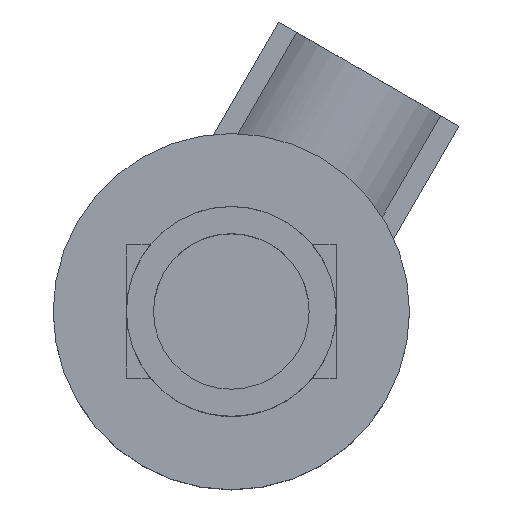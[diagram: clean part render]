
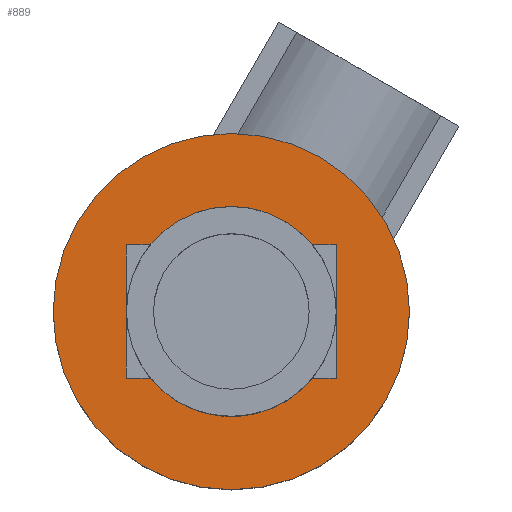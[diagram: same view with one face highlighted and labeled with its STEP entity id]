
A CAD part, top view. The second image highlights one B-rep face of the part: STEP entity #889.
In plain terms, the highlighted planar face has unit normal (0, 0, 1).
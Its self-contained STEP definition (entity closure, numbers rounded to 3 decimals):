
#70=DIRECTION('',(0.,-1.,0.));
#71=VECTOR('',#70,16.);
#72=CARTESIAN_POINT('',(-12.6,8.,-15.));
#73=LINE('',#72,#71);
#74=DIRECTION('',(1.,0.,0.));
#75=VECTOR('',#74,2.866);
#76=CARTESIAN_POINT('',(-12.6,-8.,-15.));
#77=LINE('',#76,#75);
#78=CARTESIAN_POINT('',(0.,0.,-15.));
#79=DIRECTION('',(0.,0.,-1.));
#80=DIRECTION('',(0.773,-0.635,0.));
#81=AXIS2_PLACEMENT_3D('',#78,#79,#80);
#83=DIRECTION('',(1.,0.,0.));
#84=VECTOR('',#83,2.866);
#85=CARTESIAN_POINT('',(9.734,-8.,-15.));
#86=LINE('',#85,#84);
#87=DIRECTION('',(0.,1.,0.));
#88=VECTOR('',#87,16.);
#89=CARTESIAN_POINT('',(12.6,-8.,-15.));
#90=LINE('',#89,#88);
#91=DIRECTION('',(-1.,0.,0.));
#92=VECTOR('',#91,2.866);
#93=CARTESIAN_POINT('',(12.6,8.,-15.));
#94=LINE('',#93,#92);
#95=CARTESIAN_POINT('',(0.,0.,-15.));
#96=DIRECTION('',(0.,0.,1.));
#97=DIRECTION('',(0.773,0.635,0.));
#98=AXIS2_PLACEMENT_3D('',#95,#96,#97);
#100=DIRECTION('',(-1.,0.,0.));
#101=VECTOR('',#100,2.866);
#102=CARTESIAN_POINT('',(-9.734,8.,-15.));
#103=LINE('',#102,#101);
#104=CARTESIAN_POINT('',(0.,0.,-15.));
#105=DIRECTION('',(0.,0.,1.));
#106=DIRECTION('',(1.,0.,0.));
#107=AXIS2_PLACEMENT_3D('',#104,#105,#106);
#117=CARTESIAN_POINT('',(0.,0.,-15.));
#118=DIRECTION('',(0.,0.,-1.));
#119=DIRECTION('',(1.,0.,0.));
#120=AXIS2_PLACEMENT_3D('',#117,#118,#119);
#576=CARTESIAN_POINT('',(21.4,0.,-15.));
#578=VERTEX_POINT('',#576);
#584=CARTESIAN_POINT('',(-21.4,0.,-15.));
#586=VERTEX_POINT('',#584);
#608=CARTESIAN_POINT('',(9.734,8.,-15.));
#609=VERTEX_POINT('',#608);
#610=CARTESIAN_POINT('',(-9.734,8.,-15.));
#611=VERTEX_POINT('',#610);
#612=CARTESIAN_POINT('',(-12.6,8.,-15.));
#613=CARTESIAN_POINT('',(-12.6,-8.,-15.));
#614=VERTEX_POINT('',#612);
#615=VERTEX_POINT('',#613);
#616=CARTESIAN_POINT('',(-9.734,-8.,-15.));
#617=VERTEX_POINT('',#616);
#618=CARTESIAN_POINT('',(9.734,-8.,-15.));
#619=CARTESIAN_POINT('',(12.6,-8.,-15.));
#620=VERTEX_POINT('',#618);
#621=VERTEX_POINT('',#619);
#622=CARTESIAN_POINT('',(12.6,8.,-15.));
#623=VERTEX_POINT('',#622);
#863=CARTESIAN_POINT('',(0.,0.,-15.));
#864=DIRECTION('',(0.,0.,1.));
#865=DIRECTION('',(-1.,0.,0.));
#866=AXIS2_PLACEMENT_3D('',#863,#864,#865);
#867=PLANE('',#866);
#869=ORIENTED_EDGE('',*,*,#868,.F.);
#871=ORIENTED_EDGE('',*,*,#870,.T.);
#872=EDGE_LOOP('',(#869,#871));
#873=FACE_OUTER_BOUND('',#872,.F.);
#875=ORIENTED_EDGE('',*,*,#874,.T.);
#877=ORIENTED_EDGE('',*,*,#876,.T.);
#879=ORIENTED_EDGE('',*,*,#878,.F.);
#881=ORIENTED_EDGE('',*,*,#880,.T.);
#883=ORIENTED_EDGE('',*,*,#882,.T.);
#884=ORIENTED_EDGE('',*,*,#841,.T.);
#885=ORIENTED_EDGE('',*,*,#774,.T.);
#886=ORIENTED_EDGE('',*,*,#858,.T.);
#887=EDGE_LOOP('',(#875,#877,#879,#881,#883,#884,#885,#886));
#888=FACE_BOUND('',#887,.F.);
#889=ADVANCED_FACE('',(#873,#888),#867,.T.);
#82=CIRCLE('',#81,12.6);
#99=CIRCLE('',#98,12.6);
#108=CIRCLE('',#107,21.4);
#121=CIRCLE('',#120,21.4);
#774=EDGE_CURVE('',#609,#611,#99,.T.);
#841=EDGE_CURVE('',#623,#609,#94,.T.);
#858=EDGE_CURVE('',#611,#614,#103,.T.);
#868=EDGE_CURVE('',#578,#586,#108,.T.);
#870=EDGE_CURVE('',#578,#586,#121,.T.);
#874=EDGE_CURVE('',#614,#615,#73,.T.);
#876=EDGE_CURVE('',#615,#617,#77,.T.);
#878=EDGE_CURVE('',#620,#617,#82,.T.);
#880=EDGE_CURVE('',#620,#621,#86,.T.);
#882=EDGE_CURVE('',#621,#623,#90,.T.);
